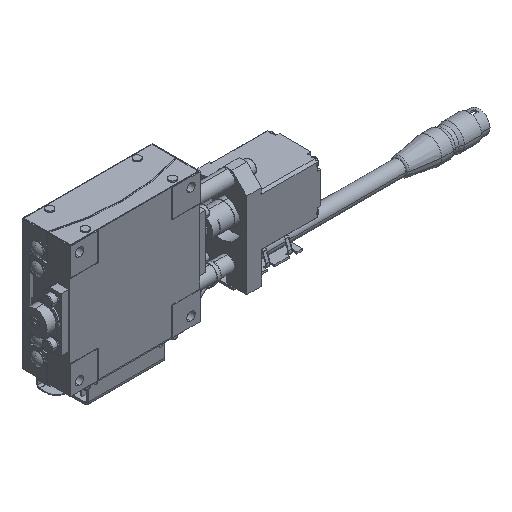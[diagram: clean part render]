
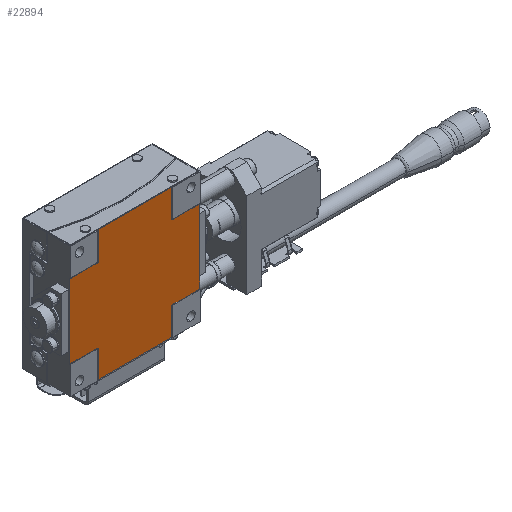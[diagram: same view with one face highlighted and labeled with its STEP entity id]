
A CAD part, isometric view. The second image highlights one B-rep face of the part: STEP entity #22894.
In plain terms, the highlighted planar face has unit normal (0, -1, 0).
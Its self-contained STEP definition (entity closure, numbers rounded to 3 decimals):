
#989 = DIRECTION ( 'NONE',  ( 0., 0., -1. ) ) ;
#1263 = CARTESIAN_POINT ( 'NONE',  ( 20., 0.3, -20. ) ) ;
#1670 = DIRECTION ( 'NONE',  ( 0., 0., 1. ) ) ;
#1679 = VECTOR ( 'NONE', #15058, 1000. ) ;
#1814 = CARTESIAN_POINT ( 'NONE',  ( 20., 0.3, 20. ) ) ;
#2382 = CARTESIAN_POINT ( 'NONE',  ( 0., 0.3, 0. ) ) ;
#2986 = ORIENTED_EDGE ( 'NONE', *, *, #34327, .T. ) ;
#3044 = LINE ( 'NONE', #1263, #28188 ) ;
#3244 = EDGE_CURVE ( 'NONE', #36505, #32725, #30736, .T. ) ;
#3340 = CARTESIAN_POINT ( 'NONE',  ( 20., 0.3, 35. ) ) ;
#3587 = DIRECTION ( 'NONE',  ( 0., 0., -1. ) ) ;
#3685 = DIRECTION ( 'NONE',  ( -1., 0., 0. ) ) ;
#3709 = CARTESIAN_POINT ( 'NONE',  ( -20., 0.3, 35. ) ) ;
#3827 = LINE ( 'NONE', #1814, #29496 ) ;
#3845 = CARTESIAN_POINT ( 'NONE',  ( -20., 0.3, 35. ) ) ;
#4162 = LINE ( 'NONE', #27120, #14361 ) ;
#4798 = CARTESIAN_POINT ( 'NONE',  ( -20., 0.3, -35. ) ) ;
#5115 = DIRECTION ( 'NONE',  ( 0., 0., 1. ) ) ;
#5555 = CARTESIAN_POINT ( 'NONE',  ( -20., 0.3, -35. ) ) ;
#6701 = EDGE_CURVE ( 'NONE', #37771, #24215, #42257, .T. ) ;
#7653 = CARTESIAN_POINT ( 'NONE',  ( -20., 0.3, -20. ) ) ;
#7689 = DIRECTION ( 'NONE',  ( 1., 0., 0. ) ) ;
#8050 = VERTEX_POINT ( 'NONE', #33531 ) ;
#8872 = EDGE_CURVE ( 'NONE', #24215, #12913, #3044, .T. ) ;
#9082 = CARTESIAN_POINT ( 'NONE',  ( 20., 0.3, -35. ) ) ;
#9121 = ORIENTED_EDGE ( 'NONE', *, *, #6701, .T. ) ;
#9416 = LINE ( 'NONE', #20956, #35568 ) ;
#10382 = CARTESIAN_POINT ( 'NONE',  ( 20., 0.3, 20. ) ) ;
#11277 = VECTOR ( 'NONE', #12122, 1000. ) ;
#11423 = LINE ( 'NONE', #23891, #36575 ) ;
#12122 = DIRECTION ( 'NONE',  ( 1., 0., 0. ) ) ;
#12913 = VERTEX_POINT ( 'NONE', #16985 ) ;
#14361 = VECTOR ( 'NONE', #3587, 1000. ) ;
#14823 = DIRECTION ( 'NONE',  ( 1., 0., 0. ) ) ;
#14829 = VERTEX_POINT ( 'NONE', #3340 ) ;
#15058 = DIRECTION ( 'NONE',  ( -1., 0., 0. ) ) ;
#15070 = FACE_OUTER_BOUND ( 'NONE', #25822, .T. ) ;
#15145 = ORIENTED_EDGE ( 'NONE', *, *, #24139, .T. ) ;
#15200 = VECTOR ( 'NONE', #14823, 1000. ) ;
#15713 = ORIENTED_EDGE ( 'NONE', *, *, #22378, .T. ) ;
#16985 = CARTESIAN_POINT ( 'NONE',  ( 35., 0.3, -20. ) ) ;
#17169 = DIRECTION ( 'NONE',  ( 0., 0., 1. ) ) ;
#18153 = CARTESIAN_POINT ( 'NONE',  ( -20., 0.3, 20. ) ) ;
#20955 = VECTOR ( 'NONE', #28433, 1000. ) ;
#20956 = CARTESIAN_POINT ( 'NONE',  ( 20., 0.3, 20. ) ) ;
#21324 = VECTOR ( 'NONE', #17169, 1000. ) ;
#21708 = VERTEX_POINT ( 'NONE', #23248 ) ;
#21982 = PLANE ( 'NONE',  #27210 ) ;
#22378 = EDGE_CURVE ( 'NONE', #8050, #40793, #23935, .T. ) ;
#22815 = ORIENTED_EDGE ( 'NONE', *, *, #22833, .T. ) ;
#22833 = EDGE_CURVE ( 'NONE', #34099, #14829, #3827, .T. ) ;
#22894 = ADVANCED_FACE ( 'NONE', ( #15070 ), #21982, .F. ) ;
#23248 = CARTESIAN_POINT ( 'NONE',  ( -35., 0.3, 20. ) ) ;
#23891 = CARTESIAN_POINT ( 'NONE',  ( -20., 0.3, -35. ) ) ;
#23935 = LINE ( 'NONE', #24602, #15200 ) ;
#24139 = EDGE_CURVE ( 'NONE', #32725, #21708, #30364, .T. ) ;
#24215 = VERTEX_POINT ( 'NONE', #41098 ) ;
#24602 = CARTESIAN_POINT ( 'NONE',  ( -35., 0.3, -20. ) ) ;
#24867 = DIRECTION ( 'NONE',  ( 0., 1., 0. ) ) ;
#25112 = CARTESIAN_POINT ( 'NONE',  ( -20., 0.3, 20. ) ) ;
#25822 = EDGE_LOOP ( 'NONE', ( #33217, #39334, #2986, #22815, #39372, #38311, #15145, #35747, #15713, #33678, #34600, #9121 ) ) ;
#27120 = CARTESIAN_POINT ( 'NONE',  ( -35., 0.3, 20. ) ) ;
#27210 = AXIS2_PLACEMENT_3D ( 'NONE', #2382, #24867, #28745 ) ;
#28188 = VECTOR ( 'NONE', #7689, 1000. ) ;
#28433 = DIRECTION ( 'NONE',  ( 0., 0., -1. ) ) ;
#28745 = DIRECTION ( 'NONE',  ( -1., 0., 0. ) ) ;
#29010 = VERTEX_POINT ( 'NONE', #4798 ) ;
#29355 = EDGE_CURVE ( 'NONE', #21708, #8050, #4162, .T. ) ;
#29496 = VECTOR ( 'NONE', #1670, 1000. ) ;
#30247 = EDGE_CURVE ( 'NONE', #29010, #37771, #30784, .T. ) ;
#30364 = LINE ( 'NONE', #37899, #1679 ) ;
#30736 = LINE ( 'NONE', #25112, #20955 ) ;
#30784 = LINE ( 'NONE', #5555, #11277 ) ;
#30889 = CARTESIAN_POINT ( 'NONE',  ( 20., 0.3, -35. ) ) ;
#31074 = LINE ( 'NONE', #36829, #21324 ) ;
#32373 = EDGE_CURVE ( 'NONE', #14829, #36505, #33133, .T. ) ;
#32410 = EDGE_CURVE ( 'NONE', #12913, #38542, #31074, .T. ) ;
#32601 = VECTOR ( 'NONE', #3685, 1000. ) ;
#32725 = VERTEX_POINT ( 'NONE', #18153 ) ;
#33133 = LINE ( 'NONE', #3845, #32601 ) ;
#33217 = ORIENTED_EDGE ( 'NONE', *, *, #8872, .T. ) ;
#33531 = CARTESIAN_POINT ( 'NONE',  ( -35., 0.3, -20. ) ) ;
#33678 = ORIENTED_EDGE ( 'NONE', *, *, #40135, .T. ) ;
#33789 = CARTESIAN_POINT ( 'NONE',  ( 35., 0.3, 20. ) ) ;
#34099 = VERTEX_POINT ( 'NONE', #10382 ) ;
#34153 = DIRECTION ( 'NONE',  ( -1., 0., 0. ) ) ;
#34327 = EDGE_CURVE ( 'NONE', #38542, #34099, #9416, .T. ) ;
#34600 = ORIENTED_EDGE ( 'NONE', *, *, #30247, .T. ) ;
#35568 = VECTOR ( 'NONE', #34153, 1000. ) ;
#35747 = ORIENTED_EDGE ( 'NONE', *, *, #29355, .T. ) ;
#36505 = VERTEX_POINT ( 'NONE', #3709 ) ;
#36575 = VECTOR ( 'NONE', #989, 1000. ) ;
#36829 = CARTESIAN_POINT ( 'NONE',  ( 35., 0.3, 20. ) ) ;
#37069 = VECTOR ( 'NONE', #5115, 1000. ) ;
#37771 = VERTEX_POINT ( 'NONE', #9082 ) ;
#37899 = CARTESIAN_POINT ( 'NONE',  ( -35., 0.3, 20. ) ) ;
#38311 = ORIENTED_EDGE ( 'NONE', *, *, #3244, .T. ) ;
#38542 = VERTEX_POINT ( 'NONE', #33789 ) ;
#39334 = ORIENTED_EDGE ( 'NONE', *, *, #32410, .T. ) ;
#39372 = ORIENTED_EDGE ( 'NONE', *, *, #32373, .T. ) ;
#40135 = EDGE_CURVE ( 'NONE', #40793, #29010, #11423, .T. ) ;
#40793 = VERTEX_POINT ( 'NONE', #7653 ) ;
#41098 = CARTESIAN_POINT ( 'NONE',  ( 20., 0.3, -20. ) ) ;
#42257 = LINE ( 'NONE', #30889, #37069 ) ;
